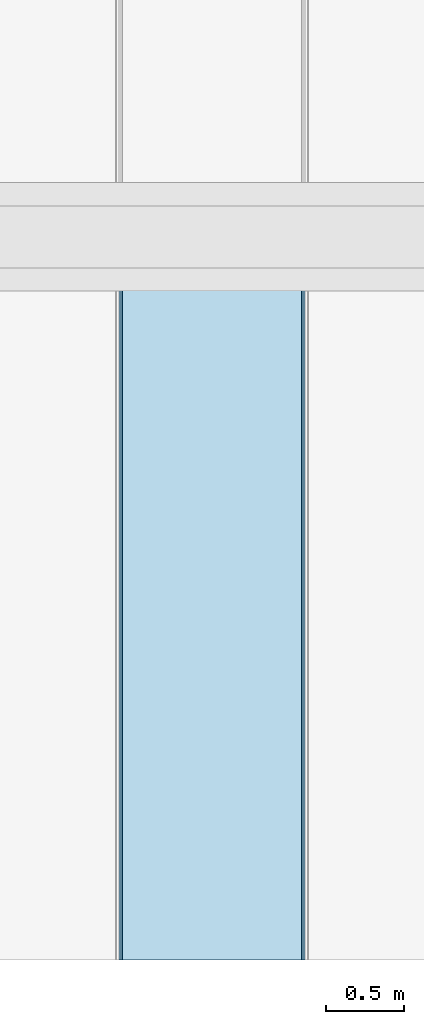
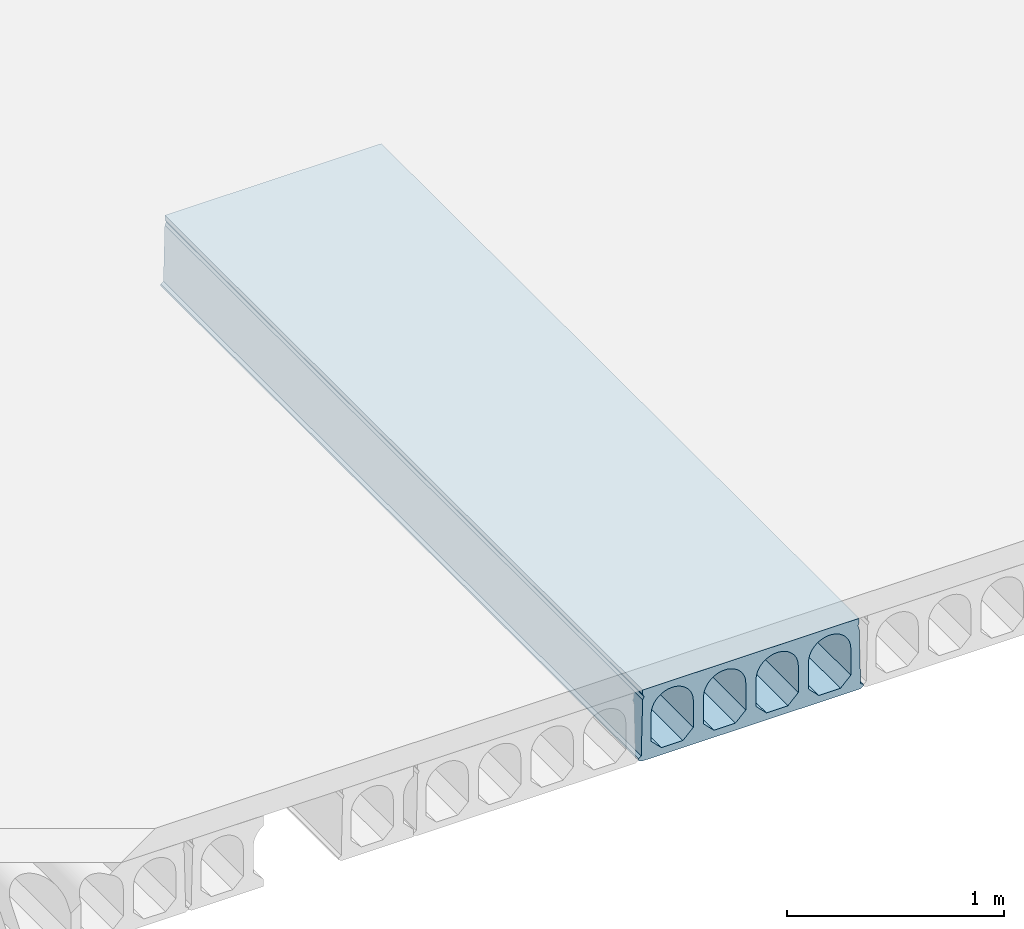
# One storey, part 45 of 98: 1 slab.
"""IFC2X3 building model written with IfcOpenShell, lengths in millimetres."""

from ifc_helpers import new_model, entity, si_unit, converted_unit, derived_unit, direction, frame, origin_with_axes, place, context, subcontext, project, spatial, faceted_brep, type_object, element, save


model = new_model("IFC2X3")

# Units and contexts
model_context = context("Model", 3, precision=0.01, world=frame((0.0, 4.29681676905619e-09, 0.0)), true_north=direction((4.01073788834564e-13, 1.0)))
plan_context = context("Plan", 3, precision=0.01, world=frame((0.0, 4.29681676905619e-09, 0.0)), true_north=direction((4.01073788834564e-13, 1.0)))
body_context = subcontext(model_context, "Body", "Model", "MODEL_VIEW")
ifc_project = project(units=[converted_unit("PLANEANGLEUNIT", "DEGREE", entity("IfcPositiveLengthMeasure", 0.0174532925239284), si_unit("PLANEANGLEUNIT", "RADIAN"), dimensions=[0, 0, 0, 0, 0, 0, 0]), si_unit("AREAUNIT", "SQUARE_METRE"), si_unit("LENGTHUNIT", "METRE", prefix="MILLI"), si_unit("MASSUNIT", "GRAM", prefix="KILO"), si_unit("POWERUNIT", "WATT"), si_unit("PRESSUREUNIT", "PASCAL"), si_unit("FORCEUNIT", "NEWTON", prefix="KILO"), si_unit("ELECTRICCURRENTUNIT", "AMPERE"), si_unit("THERMODYNAMICTEMPERATUREUNIT", "DEGREE_CELSIUS"), si_unit("TIMEUNIT", "SECOND"), si_unit("VOLUMEUNIT", "CUBIC_METRE"), derived_unit("LINEARVELOCITYUNIT", [(si_unit("LENGTHUNIT", "METRE"), 1), (si_unit("TIMEUNIT", "SECOND"), -1)]), derived_unit("VOLUMETRICFLOWRATEUNIT", [(si_unit("VOLUMEUNIT", "CUBIC_METRE"), 1), (si_unit("TIMEUNIT", "SECOND"), -1)]), derived_unit("THERMALTRANSMITTANCEUNIT", [(si_unit("POWERUNIT", "WATT"), 1), (si_unit("THERMODYNAMICTEMPERATUREUNIT", "KELVIN"), -1), (si_unit("AREAUNIT", "SQUARE_METRE"), -1)])], contexts=[model_context, plan_context])

# Site, building, storey
site_placement = place(None, frame((0.0, -4.29681676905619e-09, 0.0), z_axis=(0.0, 0.0, 1.0), x_axis=(1.0, 0.0, 0.0)))
site = spatial("IfcSite", under=ifc_project, at=site_placement, Name="Gardermoen", CompositionType="ELEMENT")
building_placement = place(site_placement, frame((0.0, 4.29681676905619e-09, 0.0), z_axis=(0.0, 0.0, 1.0), x_axis=(1.0, 0.0, 0.0)))
building = spatial("IfcBuilding", under=site, at=building_placement, Name="TS", CompositionType="ELEMENT")
storey_placement = place(building_placement, origin_with_axes())
storey = spatial("IfcBuildingStorey", under=building, at=storey_placement, Name="D", CompositionType="ELEMENT", Elevation=0.0)

# Slab
slab_type = type_object("IfcSlabType", Name="HD400", PredefinedType="NOTDEFINED")
slab_placement = place(storey_placement, frame((522399.999766, 396739.995625, 203600.0), z_axis=(0.0, 0.0, 1.0), x_axis=(0.0, 1.0, 0.0)))
element("IfcSlab", 1, at=slab_placement, inside=storey, type_object=slab_type, Name="HULLDEKKE", ObjectType="HD400", PredefinedType="FLOOR", context=body_context, shape_type="Brep", body=[
    faceted_brep([(4105.68103395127, 600.0, -180.0), (4105.68103395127, 600.0, -190.0), (8520.0, 600.0, -190.0), (8520.0, 600.0, -180.0), (4105.68103395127, 585.0, -170.0), (8520.0, 585.0, -170.0), (4105.68103395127, 577.5, 145.0), (8520.0, 577.5, 145.0), (4105.68103395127, 570.0, 160.0), (8520.0, 570.0, 160.0), (4105.68103395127, 577.5, 175.0), (8520.0, 577.5, 175.0), (4105.68103395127, 577.5, 200.0), (8520.0, 577.5, 200.0), (4105.68103395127, -577.5, 200.0), (8520.0, -577.5, 200.0), (4105.68103395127, -577.5, 175.0), (8520.0, -577.5, 175.0), (4105.68103395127, -570.0, 160.0), (8520.0, -570.0, 160.0), (4105.68103395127, -577.5, 145.0), (8520.0, -577.5, 145.0), (4105.68103395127, -585.0, -170.0), (8520.0, -585.0, -170.0), (4105.68103395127, -600.0, -180.0), (8520.0, -600.0, -180.0), (4105.68103395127, -600.0, -190.0), (8520.0, -600.0, -190.0), (4105.68103395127, -583.380004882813, -200.0), (8520.0, -583.380004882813, -200.0), (4105.68103395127, 583.380004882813, -200.0), (8520.0, 583.380004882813, -200.0), (4105.68103395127, -477.5, -160.0), (4105.68103395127, -362.5, -160.0), (8520.0, -362.5, -160.0), (8520.0, -477.5, -160.0), (4105.68103395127, -532.5, -105.0), (8520.0, -532.5, -105.0), (4105.68103395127, -532.5, 47.5), (8520.0, -532.5, 47.5), (4105.68103395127, -532.115755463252, 56.7901763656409), (8520.0, -532.115755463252, 56.7901763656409), (4105.68103395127, -530.965646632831, 66.0168914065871), (8520.0, -530.965646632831, 66.0168914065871), (4105.68103395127, -529.057529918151, 75.1171173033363), (8520.0, -529.057529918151, 75.1171173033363), (4105.68103395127, -526.404439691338, 84.028690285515), (8520.0, -526.404439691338, 84.028690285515), (4105.68103395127, -523.024499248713, 92.6907352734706), (8520.0, -523.024499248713, 92.6907352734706), (4105.68103395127, -518.940797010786, 101.044081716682), (8520.0, -518.940797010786, 101.044081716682), (4105.68103395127, -514.181228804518, 109.031667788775), (8520.0, -514.181228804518, 109.031667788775), (4105.68103395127, -508.778307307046, 116.598930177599), (8520.0, -508.778307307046, 116.598930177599), (4105.68103395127, -502.768939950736, 123.694176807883), (8520.0, -502.768939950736, 123.694176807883), (4105.68103395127, -496.194176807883, 130.268939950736), (8520.0, -496.194176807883, 130.268939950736), (4105.68103395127, -489.098930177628, 136.278307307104), (8520.0, -489.098930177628, 136.278307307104), (4105.68103395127, -481.531667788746, 141.681228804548), (8520.0, -481.531667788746, 141.681228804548), (4105.68103395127, -473.544081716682, 146.440797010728), (8520.0, -473.544081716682, 146.440797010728), (4105.68103395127, -465.190735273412, 150.524499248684), (8520.0, -465.190735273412, 150.524499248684), (4105.68103395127, -456.528690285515, 153.904439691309), (8520.0, -456.528690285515, 153.904439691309), (4105.68103395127, -447.617117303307, 156.55752991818), (8520.0, -447.617117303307, 156.55752991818), (4105.68103395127, -438.516891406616, 158.465646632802), (8520.0, -438.516891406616, 158.465646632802), (4105.68103395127, -429.290176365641, 159.615755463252), (8520.0, -429.290176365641, 159.615755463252), (4105.68103395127, -420.0, 160.0), (8520.0, -420.0, 160.0), (4105.68103395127, -410.709823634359, 159.615755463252), (8520.0, -410.709823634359, 159.615755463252), (4105.68103395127, -401.483108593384, 158.465646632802), (8520.0, -401.483108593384, 158.465646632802), (4105.68103395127, -392.382882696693, 156.55752991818), (8520.0, -392.382882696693, 156.55752991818), (4105.68103395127, -383.471309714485, 153.904439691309), (8520.0, -383.471309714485, 153.904439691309), (4105.68103395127, -374.809264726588, 150.524499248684), (8520.0, -374.809264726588, 150.524499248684), (4105.68103395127, -366.455918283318, 146.440797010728), (8520.0, -366.455918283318, 146.440797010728), (4105.68103395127, -358.468332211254, 141.681228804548), (8520.0, -358.468332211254, 141.681228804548), (4105.68103395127, -350.901069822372, 136.278307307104), (8520.0, -350.901069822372, 136.278307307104), (4105.68103395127, -343.805823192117, 130.268939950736), (8520.0, -343.805823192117, 130.268939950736), (4105.68103395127, -337.231060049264, 123.694176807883), (8520.0, -337.231060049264, 123.694176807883), (4105.68103395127, -331.221692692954, 116.598930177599), (8520.0, -331.221692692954, 116.598930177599), (4105.68103395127, -325.818771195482, 109.031667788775), (8520.0, -325.818771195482, 109.031667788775), (4105.68103395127, -321.059202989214, 101.044081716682), (8520.0, -321.059202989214, 101.044081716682), (4105.68103395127, -316.975500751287, 92.6907352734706), (8520.0, -316.975500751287, 92.6907352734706), (4105.68103395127, -313.595560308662, 84.028690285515), (8520.0, -313.595560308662, 84.028690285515), (4105.68103395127, -310.942470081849, 75.1171173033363), (8520.0, -310.942470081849, 75.1171173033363), (4105.68103395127, -309.034353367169, 66.0168914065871), (8520.0, -309.034353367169, 66.0168914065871), (4105.68103395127, -307.884244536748, 56.7901763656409), (8520.0, -307.884244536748, 56.7901763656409), (4105.68103395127, -307.5, 47.5), (8520.0, -307.5, 47.5), (4105.68103395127, -307.5, -105.0), (8520.0, -307.5, -105.0), (4105.68103395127, -197.5, -160.0), (4105.68103395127, -82.5, -160.0), (8520.0, -82.5, -160.0), (8520.0, -197.5, -160.0), (4105.68103395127, -252.5, -105.0), (8520.0, -252.5, -105.0), (4105.68103395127, -252.5, 47.5), (8520.0, -252.5, 47.5), (4105.68103395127, -252.115755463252, 56.7901763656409), (8520.0, -252.115755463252, 56.7901763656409), (4105.68103395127, -250.965646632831, 66.0168914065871), (8520.0, -250.965646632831, 66.0168914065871), (4105.68103395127, -249.057529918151, 75.1171173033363), (8520.0, -249.057529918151, 75.1171173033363), (4105.68103395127, -246.404439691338, 84.028690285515), (8520.0, -246.404439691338, 84.028690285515), (4105.68103395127, -243.024499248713, 92.6907352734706), (8520.0, -243.024499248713, 92.6907352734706), (4105.68103395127, -238.940797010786, 101.044081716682), (8520.0, -238.940797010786, 101.044081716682), (4105.68103395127, -234.181228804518, 109.031667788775), (8520.0, -234.181228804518, 109.031667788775), (4105.68103395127, -228.778307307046, 116.598930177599), (8520.0, -228.778307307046, 116.598930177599), (4105.68103395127, -222.768939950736, 123.694176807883), (8520.0, -222.768939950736, 123.694176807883), (4105.68103395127, -216.194176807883, 130.268939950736), (8520.0, -216.194176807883, 130.268939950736), (4105.68103395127, -209.098930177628, 136.278307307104), (8520.0, -209.098930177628, 136.278307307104), (4105.68103395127, -201.531667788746, 141.681228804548), (8520.0, -201.531667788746, 141.681228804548), (4105.68103395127, -193.544081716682, 146.440797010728), (8520.0, -193.544081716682, 146.440797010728), (4105.68103395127, -185.190735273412, 150.524499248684), (8520.0, -185.190735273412, 150.524499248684), (4105.68103395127, -176.528690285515, 153.904439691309), (8520.0, -176.528690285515, 153.904439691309), (4105.68103395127, -167.617117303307, 156.55752991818), (8520.0, -167.617117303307, 156.55752991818), (4105.68103395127, -158.516891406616, 158.465646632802), (8520.0, -158.516891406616, 158.465646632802), (4105.68103395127, -149.290176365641, 159.615755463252), (8520.0, -149.290176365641, 159.615755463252), (4105.68103395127, -140.0, 160.0), (8520.0, -140.0, 160.0), (4105.68103395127, -130.709823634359, 159.615755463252), (8520.0, -130.709823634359, 159.615755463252), (4105.68103395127, -121.483108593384, 158.465646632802), (8520.0, -121.483108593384, 158.465646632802), (4105.68103395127, -112.382882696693, 156.55752991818), (8520.0, -112.382882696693, 156.55752991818), (4105.68103395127, -103.471309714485, 153.904439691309), (8520.0, -103.471309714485, 153.904439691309), (4105.68103395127, -94.8092647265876, 150.524499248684), (8520.0, -94.8092647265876, 150.524499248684), (4105.68103395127, -86.4559182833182, 146.440797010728), (8520.0, -86.4559182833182, 146.440797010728), (4105.68103395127, -78.4683322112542, 141.681228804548), (8520.0, -78.4683322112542, 141.681228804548), (4105.68103395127, -70.9010698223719, 136.278307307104), (8520.0, -70.9010698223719, 136.278307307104), (4105.68103395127, -63.8058231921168, 130.268939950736), (8520.0, -63.8058231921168, 130.268939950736), (4105.68103395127, -57.2310600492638, 123.694176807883), (8520.0, -57.2310600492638, 123.694176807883), (4105.68103395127, -51.2216926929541, 116.598930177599), (8520.0, -51.2216926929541, 116.598930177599), (4105.68103395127, -45.8187711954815, 109.031667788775), (8520.0, -45.8187711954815, 109.031667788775), (4105.68103395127, -41.0592029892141, 101.044081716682), (8520.0, -41.0592029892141, 101.044081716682), (4105.68103395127, -36.9755007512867, 92.6907352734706), (8520.0, -36.9755007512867, 92.6907352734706), (4105.68103395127, -33.5955603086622, 84.028690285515), (8520.0, -33.5955603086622, 84.028690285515), (4105.68103395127, -30.942470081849, 75.1171173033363), (8520.0, -30.942470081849, 75.1171173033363), (4105.68103395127, -29.0343533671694, 66.0168914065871), (8520.0, -29.0343533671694, 66.0168914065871), (4105.68103395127, -27.8842445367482, 56.7901763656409), (8520.0, -27.8842445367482, 56.7901763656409), (4105.68103395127, -27.5, 47.5), (8520.0, -27.5, 47.5), (4105.68103395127, -27.5, -105.0), (8520.0, -27.5, -105.0), (4105.68103395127, 82.5, -160.0), (4105.68103395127, 197.5, -160.0), (8520.0, 197.5, -160.0), (8520.0, 82.5, -160.0), (4105.68103395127, 27.5, -105.0), (8520.0, 27.5, -105.0), (4105.68103395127, 27.5, 47.5), (8520.0, 27.5, 47.5), (4105.68103395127, 27.8842445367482, 56.7901763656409), (8520.0, 27.8842445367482, 56.7901763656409), (4105.68103395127, 29.0343533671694, 66.0168914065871), (8520.0, 29.0343533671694, 66.0168914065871), (4105.68103395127, 30.942470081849, 75.1171173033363), (8520.0, 30.942470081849, 75.1171173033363), (4105.68103395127, 33.5955603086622, 84.028690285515), (8520.0, 33.5955603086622, 84.028690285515), (4105.68103395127, 36.9755007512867, 92.6907352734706), (8520.0, 36.9755007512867, 92.6907352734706), (4105.68103395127, 41.0592029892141, 101.044081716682), (8520.0, 41.0592029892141, 101.044081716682), (4105.68103395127, 45.8187711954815, 109.031667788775), (8520.0, 45.8187711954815, 109.031667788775), (4105.68103395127, 51.2216926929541, 116.598930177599), (8520.0, 51.2216926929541, 116.598930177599), (4105.68103395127, 57.2310600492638, 123.694176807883), (8520.0, 57.2310600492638, 123.694176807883), (4105.68103395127, 63.8058231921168, 130.268939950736), (8520.0, 63.8058231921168, 130.268939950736), (4105.68103395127, 70.9010698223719, 136.278307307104), (8520.0, 70.9010698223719, 136.278307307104), (4105.68103395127, 78.4683322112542, 141.681228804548), (8520.0, 78.4683322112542, 141.681228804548), (4105.68103395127, 86.4559182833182, 146.440797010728), (8520.0, 86.4559182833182, 146.440797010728), (4105.68103395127, 94.8092647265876, 150.524499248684), (8520.0, 94.8092647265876, 150.524499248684), (4105.68103395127, 103.471309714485, 153.904439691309), (8520.0, 103.471309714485, 153.904439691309), (4105.68103395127, 112.382882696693, 156.55752991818), (8520.0, 112.382882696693, 156.55752991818), (4105.68103395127, 121.483108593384, 158.465646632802), (8520.0, 121.483108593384, 158.465646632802), (4105.68103395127, 130.709823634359, 159.615755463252), (8520.0, 130.709823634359, 159.615755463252), (4105.68103395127, 140.0, 160.0), (8520.0, 140.0, 160.0), (4105.68103395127, 149.290176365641, 159.615755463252), (8520.0, 149.290176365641, 159.615755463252), (4105.68103395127, 158.516891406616, 158.465646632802), (8520.0, 158.516891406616, 158.465646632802), (4105.68103395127, 167.617117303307, 156.55752991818), (8520.0, 167.617117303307, 156.55752991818), (4105.68103395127, 176.528690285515, 153.904439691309), (8520.0, 176.528690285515, 153.904439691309), (4105.68103395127, 185.190735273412, 150.524499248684), (8520.0, 185.190735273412, 150.524499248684), (4105.68103395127, 193.544081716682, 146.440797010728), (8520.0, 193.544081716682, 146.440797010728), (4105.68103395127, 201.531667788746, 141.681228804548), (8520.0, 201.531667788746, 141.681228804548), (4105.68103395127, 209.098930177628, 136.278307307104), (8520.0, 209.098930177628, 136.278307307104), (4105.68103395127, 216.194176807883, 130.268939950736), (8520.0, 216.194176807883, 130.268939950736), (4105.68103395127, 222.768939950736, 123.694176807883), (8520.0, 222.768939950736, 123.694176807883), (4105.68103395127, 228.778307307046, 116.598930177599), (8520.0, 228.778307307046, 116.598930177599), (4105.68103395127, 234.181228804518, 109.031667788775), (8520.0, 234.181228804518, 109.031667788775), (4105.68103395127, 238.940797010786, 101.044081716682), (8520.0, 238.940797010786, 101.044081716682), (4105.68103395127, 243.024499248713, 92.6907352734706), (8520.0, 243.024499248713, 92.6907352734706), (4105.68103395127, 246.404439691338, 84.028690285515), (8520.0, 246.404439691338, 84.028690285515), (4105.68103395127, 249.057529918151, 75.1171173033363), (8520.0, 249.057529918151, 75.1171173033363), (4105.68103395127, 250.965646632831, 66.0168914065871), (8520.0, 250.965646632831, 66.0168914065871), (4105.68103395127, 252.115755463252, 56.7901763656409), (8520.0, 252.115755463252, 56.7901763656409), (4105.68103395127, 252.5, 47.5), (8520.0, 252.5, 47.5), (4105.68103395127, 252.5, -105.0), (8520.0, 252.5, -105.0), (4105.68103395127, 362.5, -160.0), (4105.68103395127, 477.5, -160.0), (8520.0, 477.5, -160.0), (8520.0, 362.5, -160.0), (4105.68103395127, 307.5, -105.0), (8520.0, 307.5, -105.0), (4105.68103395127, 307.5, 47.5), (8520.0, 307.5, 47.5), (4105.68103395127, 307.884244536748, 56.7901763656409), (8520.0, 307.884244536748, 56.7901763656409), (4105.68103395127, 309.034353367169, 66.0168914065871), (8520.0, 309.034353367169, 66.0168914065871), (4105.68103395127, 310.942470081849, 75.1171173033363), (8520.0, 310.942470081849, 75.1171173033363), (4105.68103395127, 313.595560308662, 84.028690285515), (8520.0, 313.595560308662, 84.028690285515), (4105.68103395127, 316.975500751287, 92.6907352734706), (8520.0, 316.975500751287, 92.6907352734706), (4105.68103395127, 321.059202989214, 101.044081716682), (8520.0, 321.059202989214, 101.044081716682), (4105.68103395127, 325.818771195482, 109.031667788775), (8520.0, 325.818771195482, 109.031667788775), (4105.68103395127, 331.221692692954, 116.598930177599), (8520.0, 331.221692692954, 116.598930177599), (4105.68103395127, 337.231060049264, 123.694176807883), (8520.0, 337.231060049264, 123.694176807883), (4105.68103395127, 343.805823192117, 130.268939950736), (8520.0, 343.805823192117, 130.268939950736), (4105.68103395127, 350.901069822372, 136.278307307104), (8520.0, 350.901069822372, 136.278307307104), (4105.68103395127, 358.468332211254, 141.681228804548), (8520.0, 358.468332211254, 141.681228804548), (4105.68103395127, 366.455918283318, 146.440797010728), (8520.0, 366.455918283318, 146.440797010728), (4105.68103395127, 374.809264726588, 150.524499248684), (8520.0, 374.809264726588, 150.524499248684), (4105.68103395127, 383.471309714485, 153.904439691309), (8520.0, 383.471309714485, 153.904439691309), (4105.68103395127, 392.382882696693, 156.55752991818), (8520.0, 392.382882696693, 156.55752991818), (4105.68103395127, 401.483108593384, 158.465646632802), (8520.0, 401.483108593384, 158.465646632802), (4105.68103395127, 410.709823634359, 159.615755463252), (8520.0, 410.709823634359, 159.615755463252), (4105.68103395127, 420.0, 160.0), (8520.0, 420.0, 160.0), (4105.68103395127, 429.290176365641, 159.615755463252), (8520.0, 429.290176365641, 159.615755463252), (4105.68103395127, 438.516891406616, 158.465646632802), (8520.0, 438.516891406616, 158.465646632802), (4105.68103395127, 447.617117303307, 156.55752991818), (8520.0, 447.617117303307, 156.55752991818), (4105.68103395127, 456.528690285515, 153.904439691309), (8520.0, 456.528690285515, 153.904439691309), (4105.68103395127, 465.190735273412, 150.524499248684), (8520.0, 465.190735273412, 150.524499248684), (4105.68103395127, 473.544081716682, 146.440797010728), (8520.0, 473.544081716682, 146.440797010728), (4105.68103395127, 481.531667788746, 141.681228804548), (8520.0, 481.531667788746, 141.681228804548), (4105.68103395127, 489.098930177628, 136.278307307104), (8520.0, 489.098930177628, 136.278307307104), (4105.68103395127, 496.194176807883, 130.268939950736), (8520.0, 496.194176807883, 130.268939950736), (4105.68103395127, 502.768939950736, 123.694176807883), (8520.0, 502.768939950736, 123.694176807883), (4105.68103395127, 508.778307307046, 116.598930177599), (8520.0, 508.778307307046, 116.598930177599), (4105.68103395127, 514.181228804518, 109.031667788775), (8520.0, 514.181228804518, 109.031667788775), (4105.68103395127, 518.940797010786, 101.044081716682), (8520.0, 518.940797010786, 101.044081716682), (4105.68103395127, 523.024499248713, 92.6907352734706), (8520.0, 523.024499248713, 92.6907352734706), (4105.68103395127, 526.404439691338, 84.028690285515), (8520.0, 526.404439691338, 84.028690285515), (4105.68103395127, 529.057529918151, 75.1171173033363), (8520.0, 529.057529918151, 75.1171173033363), (4105.68103395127, 530.965646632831, 66.0168914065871), (8520.0, 530.965646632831, 66.0168914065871), (4105.68103395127, 532.115755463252, 56.7901763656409), (8520.0, 532.115755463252, 56.7901763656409), (4105.68103395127, 532.5, 47.5), (8520.0, 532.5, 47.5), (4105.68103395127, 532.5, -105.0), (8520.0, 532.5, -105.0)], [[[0, 1, 2, 3]], [[4, 0, 3, 5]], [[6, 4, 5, 7]], [[8, 6, 7, 9]], [[10, 8, 9, 11]], [[12, 10, 11, 13]], [[14, 12, 13, 15]], [[16, 14, 15, 17]], [[18, 16, 17, 19]], [[20, 18, 19, 21]], [[22, 20, 21, 23]], [[24, 22, 23, 25]], [[26, 24, 25, 27]], [[28, 26, 27, 29]], [[30, 28, 29, 31]], [[1, 30, 31, 2]], [[32, 33, 34, 35]], [[36, 32, 35, 37]], [[38, 36, 37, 39]], [[40, 38, 39, 41]], [[42, 40, 41, 43]], [[44, 42, 43, 45]], [[46, 44, 45, 47]], [[48, 46, 47, 49]], [[50, 48, 49, 51]], [[52, 50, 51, 53]], [[54, 52, 53, 55]], [[56, 54, 55, 57]], [[58, 56, 57, 59]], [[60, 58, 59, 61]], [[62, 60, 61, 63]], [[64, 62, 63, 65]], [[66, 64, 65, 67]], [[68, 66, 67, 69]], [[70, 68, 69, 71]], [[72, 70, 71, 73]], [[74, 72, 73, 75]], [[76, 74, 75, 77]], [[78, 76, 77, 79]], [[80, 78, 79, 81]], [[82, 80, 81, 83]], [[84, 82, 83, 85]], [[86, 84, 85, 87]], [[88, 86, 87, 89]], [[90, 88, 89, 91]], [[92, 90, 91, 93]], [[94, 92, 93, 95]], [[96, 94, 95, 97]], [[98, 96, 97, 99]], [[100, 98, 99, 101]], [[102, 100, 101, 103]], [[104, 102, 103, 105]], [[106, 104, 105, 107]], [[108, 106, 107, 109]], [[110, 108, 109, 111]], [[112, 110, 111, 113]], [[114, 112, 113, 115]], [[116, 114, 115, 117]], [[33, 116, 117, 34]], [[118, 119, 120, 121]], [[122, 118, 121, 123]], [[124, 122, 123, 125]], [[126, 124, 125, 127]], [[128, 126, 127, 129]], [[130, 128, 129, 131]], [[132, 130, 131, 133]], [[134, 132, 133, 135]], [[136, 134, 135, 137]], [[138, 136, 137, 139]], [[140, 138, 139, 141]], [[142, 140, 141, 143]], [[144, 142, 143, 145]], [[146, 144, 145, 147]], [[148, 146, 147, 149]], [[150, 148, 149, 151]], [[152, 150, 151, 153]], [[154, 152, 153, 155]], [[156, 154, 155, 157]], [[158, 156, 157, 159]], [[160, 158, 159, 161]], [[162, 160, 161, 163]], [[164, 162, 163, 165]], [[166, 164, 165, 167]], [[168, 166, 167, 169]], [[170, 168, 169, 171]], [[172, 170, 171, 173]], [[174, 172, 173, 175]], [[176, 174, 175, 177]], [[178, 176, 177, 179]], [[180, 178, 179, 181]], [[182, 180, 181, 183]], [[184, 182, 183, 185]], [[186, 184, 185, 187]], [[188, 186, 187, 189]], [[190, 188, 189, 191]], [[192, 190, 191, 193]], [[194, 192, 193, 195]], [[196, 194, 195, 197]], [[198, 196, 197, 199]], [[200, 198, 199, 201]], [[202, 200, 201, 203]], [[119, 202, 203, 120]], [[204, 205, 206, 207]], [[208, 204, 207, 209]], [[210, 208, 209, 211]], [[212, 210, 211, 213]], [[214, 212, 213, 215]], [[216, 214, 215, 217]], [[218, 216, 217, 219]], [[220, 218, 219, 221]], [[222, 220, 221, 223]], [[224, 222, 223, 225]], [[226, 224, 225, 227]], [[228, 226, 227, 229]], [[230, 228, 229, 231]], [[232, 230, 231, 233]], [[234, 232, 233, 235]], [[236, 234, 235, 237]], [[238, 236, 237, 239]], [[240, 238, 239, 241]], [[242, 240, 241, 243]], [[244, 242, 243, 245]], [[246, 244, 245, 247]], [[248, 246, 247, 249]], [[250, 248, 249, 251]], [[252, 250, 251, 253]], [[254, 252, 253, 255]], [[256, 254, 255, 257]], [[258, 256, 257, 259]], [[260, 258, 259, 261]], [[262, 260, 261, 263]], [[264, 262, 263, 265]], [[266, 264, 265, 267]], [[268, 266, 267, 269]], [[270, 268, 269, 271]], [[272, 270, 271, 273]], [[274, 272, 273, 275]], [[276, 274, 275, 277]], [[278, 276, 277, 279]], [[280, 278, 279, 281]], [[282, 280, 281, 283]], [[284, 282, 283, 285]], [[286, 284, 285, 287]], [[288, 286, 287, 289]], [[205, 288, 289, 206]], [[290, 291, 292, 293]], [[294, 290, 293, 295]], [[296, 294, 295, 297]], [[298, 296, 297, 299]], [[300, 298, 299, 301]], [[302, 300, 301, 303]], [[304, 302, 303, 305]], [[306, 304, 305, 307]], [[308, 306, 307, 309]], [[310, 308, 309, 311]], [[312, 310, 311, 313]], [[314, 312, 313, 315]], [[316, 314, 315, 317]], [[318, 316, 317, 319]], [[320, 318, 319, 321]], [[322, 320, 321, 323]], [[324, 322, 323, 325]], [[326, 324, 325, 327]], [[328, 326, 327, 329]], [[330, 328, 329, 331]], [[332, 330, 331, 333]], [[334, 332, 333, 335]], [[336, 334, 335, 337]], [[338, 336, 337, 339]], [[340, 338, 339, 341]], [[342, 340, 341, 343]], [[344, 342, 343, 345]], [[346, 344, 345, 347]], [[348, 346, 347, 349]], [[350, 348, 349, 351]], [[352, 350, 351, 353]], [[354, 352, 353, 355]], [[356, 354, 355, 357]], [[358, 356, 357, 359]], [[360, 358, 359, 361]], [[362, 360, 361, 363]], [[364, 362, 363, 365]], [[366, 364, 365, 367]], [[368, 366, 367, 369]], [[370, 368, 369, 371]], [[372, 370, 371, 373]], [[374, 372, 373, 375]], [[291, 374, 375, 292]], [[3, 2, 31, 29, 27, 25, 23, 21, 19, 17, 15, 13, 11, 9, 7, 5], [293, 292, 375, 373, 371, 369, 367, 365, 363, 361, 359, 357, 355, 353, 351, 349, 347, 345, 343, 341, 339, 337, 335, 333, 331, 329, 327, 325, 323, 321, 319, 317, 315, 313, 311, 309, 307, 305, 303, 301, 299, 297, 295], [207, 206, 289, 287, 285, 283, 281, 279, 277, 275, 273, 271, 269, 267, 265, 263, 261, 259, 257, 255, 253, 251, 249, 247, 245, 243, 241, 239, 237, 235, 233, 231, 229, 227, 225, 223, 221, 219, 217, 215, 213, 211, 209], [121, 120, 203, 201, 199, 197, 195, 193, 191, 189, 187, 185, 183, 181, 179, 177, 175, 173, 171, 169, 167, 165, 163, 161, 159, 157, 155, 153, 151, 149, 147, 145, 143, 141, 139, 137, 135, 133, 131, 129, 127, 125, 123], [35, 34, 117, 115, 113, 111, 109, 107, 105, 103, 101, 99, 97, 95, 93, 91, 89, 87, 85, 83, 81, 79, 77, 75, 73, 71, 69, 67, 65, 63, 61, 59, 57, 55, 53, 51, 49, 47, 45, 43, 41, 39, 37]], [[4, 6, 8, 10, 12, 14, 16, 18, 20, 22, 24, 26, 28, 30, 1, 0], [36, 38, 40, 42, 44, 46, 48, 50, 52, 54, 56, 58, 60, 62, 64, 66, 68, 70, 72, 74, 76, 78, 80, 82, 84, 86, 88, 90, 92, 94, 96, 98, 100, 102, 104, 106, 108, 110, 112, 114, 116, 33, 32], [122, 124, 126, 128, 130, 132, 134, 136, 138, 140, 142, 144, 146, 148, 150, 152, 154, 156, 158, 160, 162, 164, 166, 168, 170, 172, 174, 176, 178, 180, 182, 184, 186, 188, 190, 192, 194, 196, 198, 200, 202, 119, 118], [208, 210, 212, 214, 216, 218, 220, 222, 224, 226, 228, 230, 232, 234, 236, 238, 240, 242, 244, 246, 248, 250, 252, 254, 256, 258, 260, 262, 264, 266, 268, 270, 272, 274, 276, 278, 280, 282, 284, 286, 288, 205, 204], [294, 296, 298, 300, 302, 304, 306, 308, 310, 312, 314, 316, 318, 320, 322, 324, 326, 328, 330, 332, 334, 336, 338, 340, 342, 344, 346, 348, 350, 352, 354, 356, 358, 360, 362, 364, 366, 368, 370, 372, 374, 291, 290]]], orient=[[False], [False], [False], [False], [False], [False], [False], [False], [False], [False], [False], [False], [False], [False], [False], [False], [False], [False], [False], [False], [False], [False], [False], [False], [False], [False], [False], [False], [False], [False], [False], [False], [False], [False], [False], [False], [False], [False], [False], [False], [False], [False], [False], [False], [False], [False], [False], [False], [False], [False], [False], [False], [False], [False], [False], [False], [False], [False], [False], [False], [False], [False], [False], [False], [False], [False], [False], [False], [False], [False], [False], [False], [False], [False], [False], [False], [False], [False], [False], [False], [False], [False], [False], [False], [False], [False], [False], [False], [False], [False], [False], [False], [False], [False], [False], [False], [False], [False], [False], [False], [False], [False], [False], [False], [False], [False], [False], [False], [False], [False], [False], [False], [False], [False], [False], [False], [False], [False], [False], [False], [False], [False], [False], [False], [False], [False], [False], [False], [False], [False], [False], [False], [False], [False], [False], [False], [False], [False], [False], [False], [False], [False], [False], [False], [False], [False], [False], [False], [False], [False], [False], [False], [False], [False], [False], [False], [False], [False], [False], [False], [False], [False], [False], [False], [False], [False], [False], [False], [False], [False], [False], [False], [False], [False], [False], [False], [False], [False], [False], [False], [False], [False], [False], [False], [False], [False], [False], [False], [False, False, False, False, False], [False, False, False, False, False]]),
])

save(model, "model.ifc")
